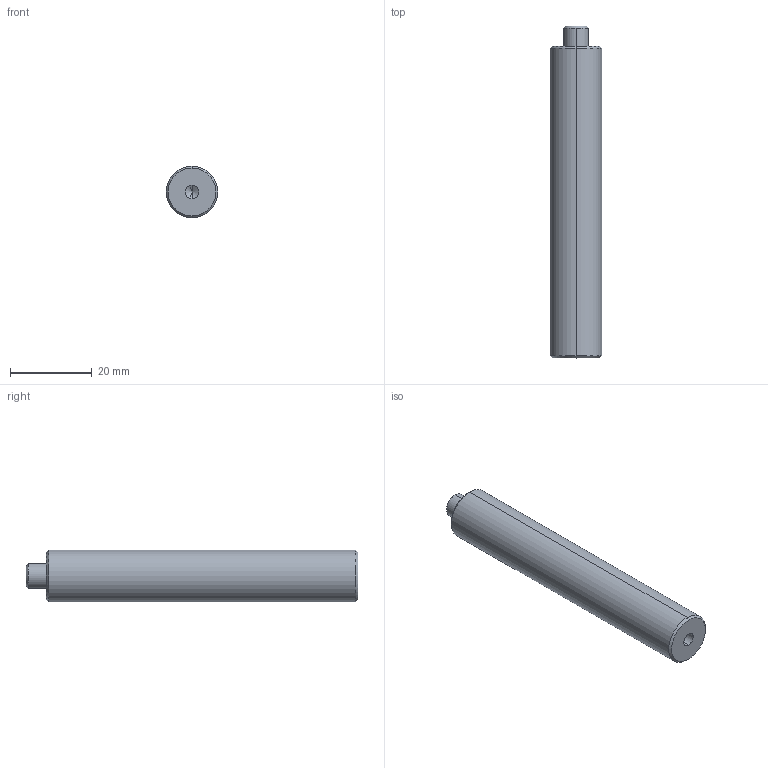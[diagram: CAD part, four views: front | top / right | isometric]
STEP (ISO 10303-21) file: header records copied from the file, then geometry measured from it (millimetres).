
FILE_DESCRIPTION (( 'STEP AP203' ), '1' );
FILE_NAME ('(STEP)M-PDJ-3.STEP', '2020-03-31T08:41:40', ( '' ), ( '' ), 'SwSTEP 2.0', 'SolidWorks 2019', '' );
FILE_SCHEMA (( 'CONFIG_CONTROL_DESIGN' ));
Length unit declared in the file: millimetre
Products named in the file (1): (STEP)M-PDJ-3
Bounding box: 12.7 x 81.2 x 12.7 mm (x, y, z)
Volume: 9693 mm3; surface area: 3464.1 mm2
Topology: 1 solids, 1 shells, 17 faces, 34 edges, 19 vertices
Faces by surface type: cone 8, cylinder 6, plane 3
Entity records: 505 total; most frequent: DIRECTION 86, CARTESIAN_POINT 69, ORIENTED_EDGE 64, AXIS2_PLACEMENT_3D 36, EDGE_CURVE 32, EDGE_LOOP 19, VERTEX_POINT 19, CIRCLE 18
